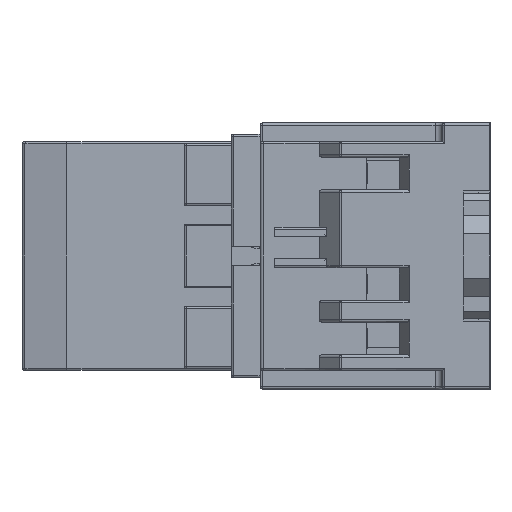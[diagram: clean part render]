
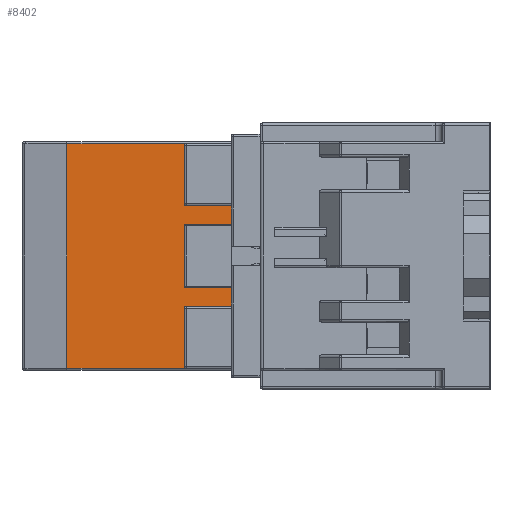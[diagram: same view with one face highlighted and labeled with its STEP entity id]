
A CAD part, left-side view. The second image highlights one B-rep face of the part: STEP entity #8402.
In plain terms, the highlighted planar face has unit normal (-1, 0, 0).
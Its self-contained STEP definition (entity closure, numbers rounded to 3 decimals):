
#465 = DIRECTION ( 'NONE',  ( 0., 0., -1. ) ) ;
#1208 = CARTESIAN_POINT ( 'NONE',  ( 15.964, -13.122, -15.1 ) ) ;
#1379 = CARTESIAN_POINT ( 'NONE',  ( 15.964, 15.068, 17.9 ) ) ;
#2272 = LINE ( 'NONE', #13213, #34062 ) ;
#5672 = DIRECTION ( 'NONE',  ( 1., 0., 0. ) ) ;
#8402 = ADVANCED_FACE ( 'NONE', ( #36927 ), #10667, .F. ) ;
#9704 = CARTESIAN_POINT ( 'NONE',  ( 15.964, 9.018, 15.1 ) ) ;
#9967 = ORIENTED_EDGE ( 'NONE', *, *, #31713, .T. ) ;
#10282 = VERTEX_POINT ( 'NONE', #9704 ) ;
#10667 = PLANE ( 'NONE',  #21415 ) ;
#12356 = CARTESIAN_POINT ( 'NONE',  ( 15.964, -13.122, 15.1 ) ) ;
#13213 = CARTESIAN_POINT ( 'NONE',  ( 15.964, 15.068, 15.1 ) ) ;
#13869 = DIRECTION ( 'NONE',  ( 0., 0., -1. ) ) ;
#16676 = ORIENTED_EDGE ( 'NONE', *, *, #49935, .F. ) ;
#21133 = DIRECTION ( 'NONE',  ( 0., -1., 0. ) ) ;
#21301 = DIRECTION ( 'NONE',  ( 0., 1., 0. ) ) ;
#21415 = AXIS2_PLACEMENT_3D ( 'NONE', #1379, #5672, #21301 ) ;
#22593 = VERTEX_POINT ( 'NONE', #12356 ) ;
#23072 = CARTESIAN_POINT ( 'NONE',  ( 15.964, 9.018, -15.1 ) ) ;
#26473 = EDGE_LOOP ( 'NONE', ( #9967, #38055, #16676, #29545 ) ) ;
#26695 = VECTOR ( 'NONE', #465, 1000. ) ;
#28843 = LINE ( 'NONE', #65435, #37892 ) ;
#29545 = ORIENTED_EDGE ( 'NONE', *, *, #30822, .T. ) ;
#30822 = EDGE_CURVE ( 'NONE', #22593, #10282, #2272, .T. ) ;
#31576 = EDGE_CURVE ( 'NONE', #32476, #38686, #37434, .T. ) ;
#31713 = EDGE_CURVE ( 'NONE', #10282, #32476, #45056, .T. ) ;
#32476 = VERTEX_POINT ( 'NONE', #23072 ) ;
#34062 = VECTOR ( 'NONE', #64142, 1000. ) ;
#36927 = FACE_OUTER_BOUND ( 'NONE', #26473, .T. ) ;
#37434 = LINE ( 'NONE', #1208, #41559 ) ;
#37892 = VECTOR ( 'NONE', #13869, 1000. ) ;
#38055 = ORIENTED_EDGE ( 'NONE', *, *, #31576, .T. ) ;
#38686 = VERTEX_POINT ( 'NONE', #43907 ) ;
#41559 = VECTOR ( 'NONE', #21133, 1000. ) ;
#43907 = CARTESIAN_POINT ( 'NONE',  ( 15.964, -13.122, -15.1 ) ) ;
#45056 = LINE ( 'NONE', #49711, #26695 ) ;
#49711 = CARTESIAN_POINT ( 'NONE',  ( 15.964, 9.018, 17.9 ) ) ;
#49935 = EDGE_CURVE ( 'NONE', #22593, #38686, #28843, .T. ) ;
#64142 = DIRECTION ( 'NONE',  ( 0., 1., 0. ) ) ;
#65435 = CARTESIAN_POINT ( 'NONE',  ( 15.964, -13.122, 17.9 ) ) ;
